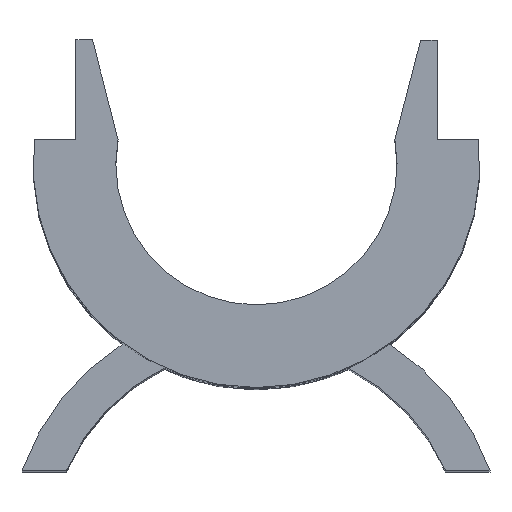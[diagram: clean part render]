
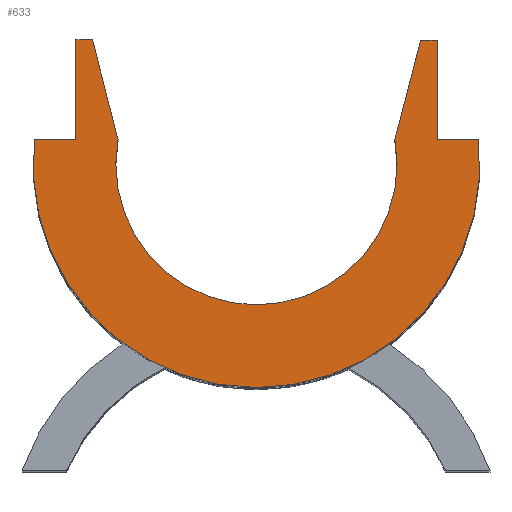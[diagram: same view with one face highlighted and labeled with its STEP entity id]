
A CAD part, top view. The second image highlights one B-rep face of the part: STEP entity #633.
In plain terms, the highlighted planar face has unit normal (0, 0, 1).
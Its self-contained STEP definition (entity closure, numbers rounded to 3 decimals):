
#45=FACE_OUTER_BOUND('',#81,.T.);
#81=EDGE_LOOP('',(#514,#515,#516,#517,#518,#519,#520,#521,#522,#523));
#129=LINE('',#1046,#189);
#134=LINE('',#1059,#194);
#136=LINE('',#1063,#196);
#138=LINE('',#1066,#198);
#139=LINE('',#1069,#199);
#140=LINE('',#1071,#200);
#141=LINE('',#1073,#201);
#142=LINE('',#1075,#202);
#189=VECTOR('',#847,10.);
#194=VECTOR('',#862,10.);
#196=VECTOR('',#866,10.);
#198=VECTOR('',#870,10.);
#199=VECTOR('',#873,10.);
#200=VECTOR('',#874,10.);
#201=VECTOR('',#875,10.);
#202=VECTOR('',#876,10.);
#237=CIRCLE('',#698,2.7);
#240=CIRCLE('',#705,1.7);
#289=VERTEX_POINT('',#1044);
#290=VERTEX_POINT('',#1045);
#291=VERTEX_POINT('',#1050);
#292=VERTEX_POINT('',#1051);
#293=VERTEX_POINT('',#1058);
#294=VERTEX_POINT('',#1062);
#295=VERTEX_POINT('',#1068);
#296=VERTEX_POINT('',#1070);
#297=VERTEX_POINT('',#1072);
#298=VERTEX_POINT('',#1074);
#363=EDGE_CURVE('',#289,#290,#129,.T.);
#366=EDGE_CURVE('',#291,#292,#237,.T.);
#371=EDGE_CURVE('',#292,#293,#134,.T.);
#373=EDGE_CURVE('',#293,#294,#136,.T.);
#375=EDGE_CURVE('',#294,#289,#138,.T.);
#376=EDGE_CURVE('',#295,#291,#139,.T.);
#377=EDGE_CURVE('',#296,#295,#140,.T.);
#378=EDGE_CURVE('',#297,#296,#141,.T.);
#379=EDGE_CURVE('',#298,#297,#142,.T.);
#380=EDGE_CURVE('',#290,#298,#240,.T.);
#514=ORIENTED_EDGE('',*,*,#363,.F.);
#515=ORIENTED_EDGE('',*,*,#375,.F.);
#516=ORIENTED_EDGE('',*,*,#373,.F.);
#517=ORIENTED_EDGE('',*,*,#371,.F.);
#518=ORIENTED_EDGE('',*,*,#366,.F.);
#519=ORIENTED_EDGE('',*,*,#376,.F.);
#520=ORIENTED_EDGE('',*,*,#377,.F.);
#521=ORIENTED_EDGE('',*,*,#378,.F.);
#522=ORIENTED_EDGE('',*,*,#379,.F.);
#523=ORIENTED_EDGE('',*,*,#380,.F.);
#600=PLANE('',#704);
#633=ADVANCED_FACE('',(#45),#600,.T.);
#698=AXIS2_PLACEMENT_3D('',#1052,#852,#853);
#704=AXIS2_PLACEMENT_3D('',#1067,#871,#872);
#705=AXIS2_PLACEMENT_3D('',#1076,#877,#878);
#847=DIRECTION('',(0.249,-0.968,0.));
#852=DIRECTION('center_axis',(0.,0.,-1.));
#853=DIRECTION('ref_axis',(-0.994,0.112,0.));
#862=DIRECTION('',(1.,-0.001,0.));
#866=DIRECTION('',(0.001,1.,0.));
#870=DIRECTION('',(1.,-0.001,0.));
#871=DIRECTION('center_axis',(0.,0.,
1.));
#872=DIRECTION('ref_axis',(1.,0.,0.));
#873=DIRECTION('',(1.,-0.001,0.));
#874=DIRECTION('',(-0.001,-1.,0.));
#875=DIRECTION('',(1.,-0.001,0.));
#876=DIRECTION('',(0.251,0.968,0.));
#877=DIRECTION('center_axis',(0.,0.,1.));
#878=DIRECTION('ref_axis',(0.984,-0.178,0.));
#1044=CARTESIAN_POINT('',(-1.977,2.722,7.45));
#1045=CARTESIAN_POINT('',(-1.668,1.522,7.45));
#1046=CARTESIAN_POINT('',(-1.668,1.522,7.45));
#1050=CARTESIAN_POINT('',(2.689,1.517,7.45));
#1051=CARTESIAN_POINT('',(-2.678,1.523,7.45));
#1052=CARTESIAN_POINT('Origin',(0.005,1.22,7.45));
#1058=CARTESIAN_POINT('',(-2.178,1.522,7.45));
#1059=CARTESIAN_POINT('',(-2.178,1.522,7.45));
#1062=CARTESIAN_POINT('',(-2.177,2.722,7.45));
#1063=CARTESIAN_POINT('',(-2.177,2.722,7.45));
#1066=CARTESIAN_POINT('',(-1.977,2.722,7.45));
#1067=CARTESIAN_POINT('Origin',(-1.673,0.642,7.45));
#1068=CARTESIAN_POINT('',(2.189,1.517,7.45));
#1069=CARTESIAN_POINT('',(2.689,1.517,7.45));
#1070=CARTESIAN_POINT('',(2.19,2.717,7.45));
#1071=CARTESIAN_POINT('',(2.189,1.517,7.45));
#1072=CARTESIAN_POINT('',(1.99,2.718,7.45));
#1073=CARTESIAN_POINT('',(2.19,2.717,7.45));
#1074=CARTESIAN_POINT('',(1.679,1.518,7.45));
#1075=CARTESIAN_POINT('',(1.99,2.718,7.45));
#1076=CARTESIAN_POINT('Origin',(0.005,1.22,7.45));
